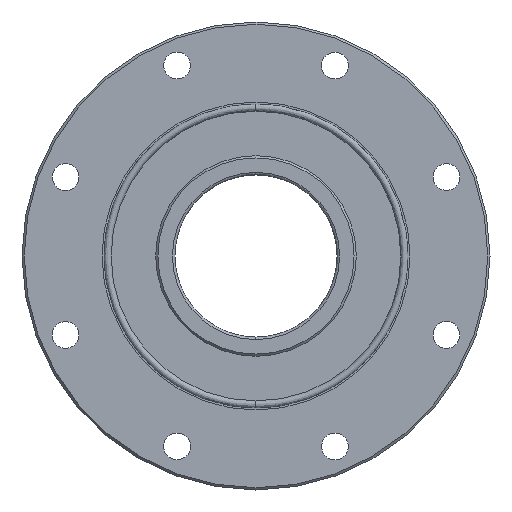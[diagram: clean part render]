
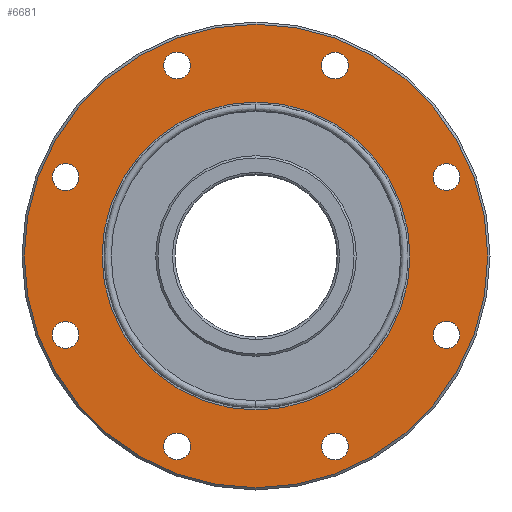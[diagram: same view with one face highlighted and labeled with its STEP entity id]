
A CAD part, left-side view. The second image highlights one B-rep face of the part: STEP entity #6681.
In plain terms, the highlighted planar face has unit normal (-1, 0, 0).
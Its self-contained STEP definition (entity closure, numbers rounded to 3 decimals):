
#6562=CARTESIAN_POINT('',(1.0,-104.0,0.));
#6563=VERTEX_POINT('',#6562);
#6564=CARTESIAN_POINT('',(1.0,0.,0.));
#6565=DIRECTION('',(1.0,0.0,0.0));
#6566=DIRECTION('',(0.0,-1.0,0.));
#6567=AXIS2_PLACEMENT_3D('',#6564,#6565,#6566);
#6568=CIRCLE('',#6567,104.0);
#6569=EDGE_CURVE('',#6563,#6563,#6568,.T.);
#6574=CARTESIAN_POINT('',(1.0,-114.4,-114.4));
#6575=DIRECTION('',(-1.0,0.0,0.0));
#6576=DIRECTION('',(0.0,0.0,1.0));
#6577=AXIS2_PLACEMENT_3D('',#6574,#6575,#6576);
#6578=PLANE('',#6577);
#6579=ORIENTED_EDGE('',*,*,#6569,.F.);
#6580=EDGE_LOOP('',(#6579));
#6581=FACE_OUTER_BOUND('',#6580,.T.);
#6582=CARTESIAN_POINT('',(1.0,69.1,0.));
#6583=VERTEX_POINT('',#6582);
#6584=CARTESIAN_POINT('',(1.0,0.,0.));
#6585=DIRECTION('',(1.0,0.,0.));
#6586=DIRECTION('',(0.0,1.0,0.));
#6587=AXIS2_PLACEMENT_3D('',#6584,#6585,#6586);
#6588=CIRCLE('',#6587,69.1);
#6589=EDGE_CURVE('',#6583,#6583,#6588,.T.);
#6590=ORIENTED_EDGE('',*,*,#6589,.T.);
#6591=EDGE_LOOP('',(#6590));
#6592=FACE_BOUND('',#6591,.T.);
#6593=CARTESIAN_POINT('',(1.0,35.398,91.459));
#6594=VERTEX_POINT('',#6593);
#6595=CARTESIAN_POINT('',(1.,35.398,85.459));
#6596=DIRECTION('',(1.0,0.,0.0));
#6597=DIRECTION('',(0.0,0.0,1.0));
#6598=AXIS2_PLACEMENT_3D('',#6595,#6596,#6597);
#6599=CIRCLE('',#6598,6.);
#6600=EDGE_CURVE('',#6594,#6594,#6599,.T.);
#6601=ORIENTED_EDGE('',*,*,#6600,.T.);
#6602=EDGE_LOOP('',(#6601));
#6603=FACE_BOUND('',#6602,.T.);
#6604=CARTESIAN_POINT('',(1.0,-39.641,89.701));
#6605=VERTEX_POINT('',#6604);
#6606=CARTESIAN_POINT('',(1.,-35.398,85.459));
#6607=DIRECTION('',(1.0,0.,0.));
#6608=DIRECTION('',(0.0,-0.707,0.707));
#6609=AXIS2_PLACEMENT_3D('',#6606,#6607,#6608);
#6610=CIRCLE('',#6609,6.);
#6611=EDGE_CURVE('',#6605,#6605,#6610,.T.);
#6612=ORIENTED_EDGE('',*,*,#6611,.T.);
#6613=EDGE_LOOP('',(#6612));
#6614=FACE_BOUND('',#6613,.T.);
#6615=CARTESIAN_POINT('',(1.0,-91.459,35.398));
#6616=VERTEX_POINT('',#6615);
#6617=CARTESIAN_POINT('',(1.,-85.459,35.398));
#6618=DIRECTION('',(1.0,0.,0.));
#6619=DIRECTION('',(0.0,-1.0,0.));
#6620=AXIS2_PLACEMENT_3D('',#6617,#6618,#6619);
#6621=CIRCLE('',#6620,6.);
#6622=EDGE_CURVE('',#6616,#6616,#6621,.T.);
#6623=ORIENTED_EDGE('',*,*,#6622,.T.);
#6624=EDGE_LOOP('',(#6623));
#6625=FACE_BOUND('',#6624,.T.);
#6626=CARTESIAN_POINT('',(1.0,-89.701,-39.641));
#6627=VERTEX_POINT('',#6626);
#6628=CARTESIAN_POINT('',(1.,-85.459,-35.398));
#6629=DIRECTION('',(1.0,0.,0.));
#6630=DIRECTION('',(0.0,-0.707,-0.707));
#6631=AXIS2_PLACEMENT_3D('',#6628,#6629,#6630);
#6632=CIRCLE('',#6631,6.);
#6633=EDGE_CURVE('',#6627,#6627,#6632,.T.);
#6634=ORIENTED_EDGE('',*,*,#6633,.T.);
#6635=EDGE_LOOP('',(#6634));
#6636=FACE_BOUND('',#6635,.T.);
#6637=CARTESIAN_POINT('',(1.0,-35.398,-91.459));
#6638=VERTEX_POINT('',#6637);
#6639=CARTESIAN_POINT('',(1.,-35.398,-85.459));
#6640=DIRECTION('',(1.0,0.,0.));
#6641=DIRECTION('',(0.0,0.,-1.0));
#6642=AXIS2_PLACEMENT_3D('',#6639,#6640,#6641);
#6643=CIRCLE('',#6642,6.);
#6644=EDGE_CURVE('',#6638,#6638,#6643,.T.);
#6645=ORIENTED_EDGE('',*,*,#6644,.T.);
#6646=EDGE_LOOP('',(#6645));
#6647=FACE_BOUND('',#6646,.T.);
#6648=CARTESIAN_POINT('',(1.0,39.641,-89.701));
#6649=VERTEX_POINT('',#6648);
#6650=CARTESIAN_POINT('',(1.,35.398,-85.459));
#6651=DIRECTION('',(1.,0.,0.));
#6652=DIRECTION('',(0.0,0.707,-0.707));
#6653=AXIS2_PLACEMENT_3D('',#6650,#6651,#6652);
#6654=CIRCLE('',#6653,6.);
#6655=EDGE_CURVE('',#6649,#6649,#6654,.T.);
#6656=ORIENTED_EDGE('',*,*,#6655,.T.);
#6657=EDGE_LOOP('',(#6656));
#6658=FACE_BOUND('',#6657,.T.);
#6659=CARTESIAN_POINT('',(1.0,91.459,-35.398));
#6660=VERTEX_POINT('',#6659);
#6661=CARTESIAN_POINT('',(1.,85.459,-35.398));
#6662=DIRECTION('',(1.0,0.,0.));
#6663=DIRECTION('',(0.0,1.0,0.));
#6664=AXIS2_PLACEMENT_3D('',#6661,#6662,#6663);
#6665=CIRCLE('',#6664,6.);
#6666=EDGE_CURVE('',#6660,#6660,#6665,.T.);
#6667=ORIENTED_EDGE('',*,*,#6666,.T.);
#6668=EDGE_LOOP('',(#6667));
#6669=FACE_BOUND('',#6668,.T.);
#6670=CARTESIAN_POINT('',(1.0,89.701,39.641));
#6671=VERTEX_POINT('',#6670);
#6672=CARTESIAN_POINT('',(1.,85.459,35.398));
#6673=DIRECTION('',(1.0,0.,0.));
#6674=DIRECTION('',(0.0,0.707,0.707));
#6675=AXIS2_PLACEMENT_3D('',#6672,#6673,#6674);
#6676=CIRCLE('',#6675,6.);
#6677=EDGE_CURVE('',#6671,#6671,#6676,.T.);
#6678=ORIENTED_EDGE('',*,*,#6677,.T.);
#6679=EDGE_LOOP('',(#6678));
#6680=FACE_BOUND('',#6679,.T.);
#6681=ADVANCED_FACE('',(#6581,#6592,#6603,#6614,#6625,#6636,#6647,#6658,#6669,#6680),#6578,.T.);
